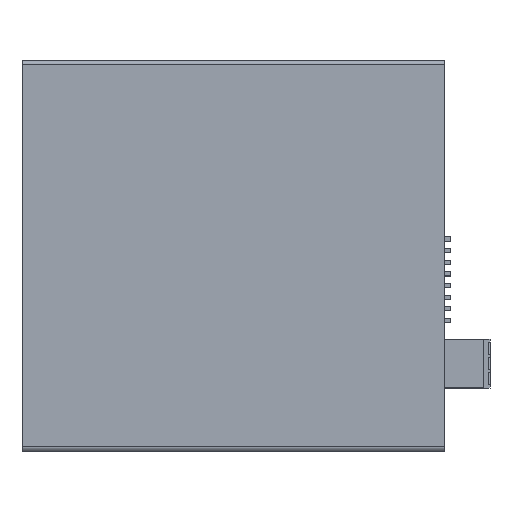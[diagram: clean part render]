
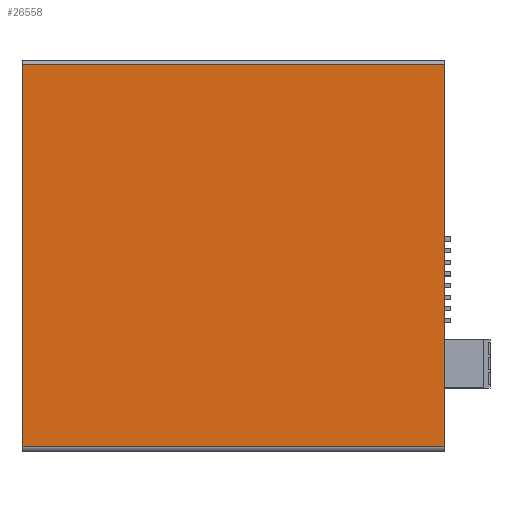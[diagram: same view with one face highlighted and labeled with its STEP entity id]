
A CAD part, top view. The second image highlights one B-rep face of the part: STEP entity #26558.
In plain terms, the highlighted planar face has unit normal (0, 0, 1).
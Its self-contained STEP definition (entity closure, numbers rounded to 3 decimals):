
#41=DIRECTION('',(0.,1.,0.));
#42=VECTOR('',#41,95.);
#43=CARTESIAN_POINT('',(52.5,-47.5,20.));
#44=LINE('',#43,#42);
#673=DIRECTION('',(-1.,0.,0.));
#674=VECTOR('',#673,105.);
#675=CARTESIAN_POINT('',(52.5,47.5,20.));
#676=LINE('',#675,#674);
#682=DIRECTION('',(0.,-1.,0.));
#683=VECTOR('',#682,95.);
#684=CARTESIAN_POINT('',(-52.5,47.5,20.));
#685=LINE('',#684,#683);
#709=DIRECTION('',(1.,0.,0.));
#710=VECTOR('',#709,105.);
#711=CARTESIAN_POINT('',(-52.5,-47.5,20.));
#712=LINE('',#711,#710);
#19857=CARTESIAN_POINT('',(52.5,47.5,20.));
#19859=VERTEX_POINT('',#19857);
#19865=CARTESIAN_POINT('',(52.5,-47.5,20.));
#19866=VERTEX_POINT('',#19865);
#20180=CARTESIAN_POINT('',(-52.5,47.5,20.));
#20182=VERTEX_POINT('',#20180);
#20183=CARTESIAN_POINT('',(-52.5,-47.5,20.));
#20184=VERTEX_POINT('',#20183);
#26546=CARTESIAN_POINT('',(0.,0.,20.));
#26547=DIRECTION('',(0.,0.,1.));
#26548=DIRECTION('',(1.,0.,0.));
#26549=AXIS2_PLACEMENT_3D('',#26546,#26547,#26548);
#26550=PLANE('',#26549);
#26551=ORIENTED_EDGE('',*,*,#26520,.F.);
#26552=ORIENTED_EDGE('',*,*,#26173,.F.);
#26554=ORIENTED_EDGE('',*,*,#26553,.F.);
#26555=ORIENTED_EDGE('',*,*,#26531,.F.);
#26556=EDGE_LOOP('',(#26551,#26552,#26554,#26555));
#26557=FACE_OUTER_BOUND('',#26556,.F.);
#26173=EDGE_CURVE('',#19866,#19859,#44,.T.);
#26520=EDGE_CURVE('',#19859,#20182,#676,.T.);
#26531=EDGE_CURVE('',#20182,#20184,#685,.T.);
#26553=EDGE_CURVE('',#20184,#19866,#712,.T.);
#26558=ADVANCED_FACE('',(#26557),#26550,.T.);
